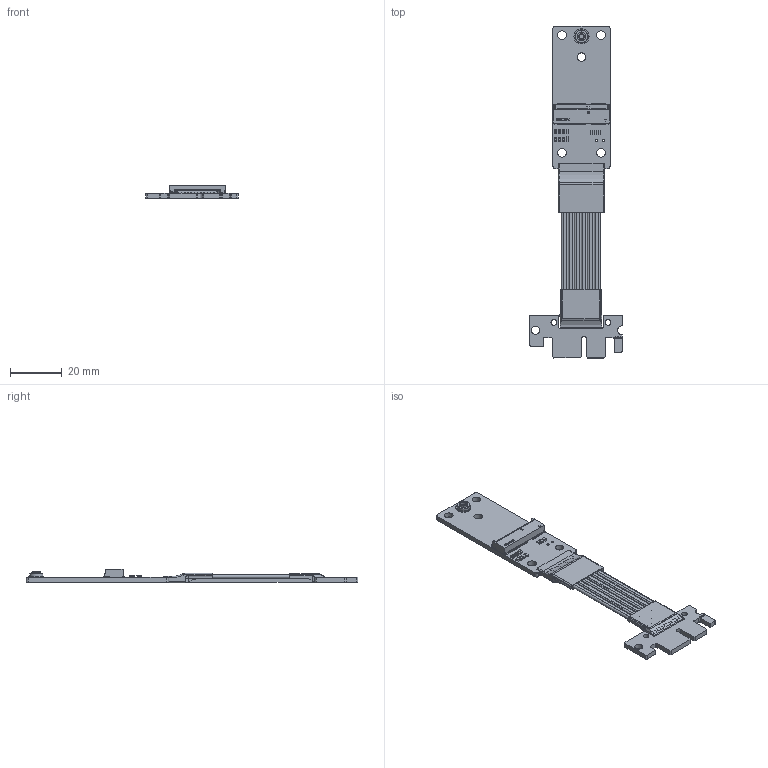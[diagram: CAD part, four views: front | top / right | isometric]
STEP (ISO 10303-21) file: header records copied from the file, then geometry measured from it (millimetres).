
FILE_DESCRIPTION(('Open CASCADE Model'),'2;1');
FILE_NAME('Open CASCADE Shape Model','2024-03-29T10:38:14',('Author'),( 'Open CASCADE'),'Open CASCADE STEP processor 7.5','Open CASCADE 7.5' ,'Unknown');
FILE_SCHEMA(('AUTOMOTIVE_DESIGN { 1 0 10303 214 1 1 1 1 }'));
Length unit declared in the file: millimetre
Products named in the file (128): PCB; Board; Open CASCADE STEP translator 7.5 12.1.1; C2; C0603_060; C3; C4; C5; CN1; APCI0085 20210716; VCC D1; LED AP1608; ERR D2; ACC D3; R1; 0603_RES; Capsule; Encapsulation; TopCover; R2; R3; C1; Free-Models; R11SL-TL 4.0   Heat shrink tube_RGB3947580; M2 nuc_RGB6740479; G0030_RGB12967653; G0038; M3DɈ̵¹۟RGB4408131; DP5A-8T ºۉ« 4.0_RGB2960685
Assembly tree (154 placements, depth 4):
  PCB
    Board
      Open CASCADE STEP translator 7.5 12.1.1
    C2
      C0603_060
      C0603_060
      C0603_060
    C3
      C0603_060
      C0603_060
      C0603_060
    C4
      C0603_060
      C0603_060
      C0603_060
    C5
      C0603_060
      C0603_060
      C0603_060
    CN1
      APCI0085 20210716  x2
      APCI0085 20210716
      APCI0085 20210716  x2
      APCI0085 20210716
      APCI0085 20210716  x2
      APCI0085 20210716
      APCI0085 20210716  x2
      APCI0085 20210716
      APCI0085 20210716  x2
      APCI0085 20210716
      APCI0085 20210716  x2
      APCI0085 20210716
      APCI0085 20210716  x2
      APCI0085 20210716
      APCI0085 20210716  x2
      APCI0085 20210716
      APCI0085 20210716  x2
      APCI0085 20210716
      APCI0085 20210716  x2
      APCI0085 20210716
    VCC D1
      LED AP1608
    ERR D2
      LED AP1608
    ACC D3
      LED AP1608
    R1
      0603_RES
        Capsule
        Encapsulation  x2
        TopCover
    R2
      0603_RES
        Capsule
        Encapsulation  x2
        TopCover
    R3
      0603_RES
        Capsule
        Encapsulation  x2
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Bounding box: 35.5 x 127.78 x 5.25 mm (x, y, z)
Volume: 5341.4 mm3; surface area: 18813.4 mm2
Topology: 157 solids, 157 shells, 6264 faces, 17137 edges, 11170 vertices
Faces by surface type: bspline 3135, revolution 1380, plane 1177, cylinder 467, torus 56, sphere 44, cone 5
Full cylindrical faces by diameter (mm): 0.25 x60, 0.28 x60, 0.55 x24, 0.58 x24, 0.6 x3, 0.8 x12, 0.9 x2, 1.1 x1, 1.6 x1, 2 x1, 2.2 x2, 3.2 x2, 3.3 x6, 3.4 x1, 5 x1
Entity records: 160692 total; most frequent: CARTESIAN_POINT 56590, ORIENTED_EDGE 20696, EDGE_CURVE 10348, B_SPLINE_CURVE_WITH_KNOTS 8042, VERTEX_POINT 6846, DIRECTION 6122, FACE_BOUND 4296, EDGE_LOOP 4296
